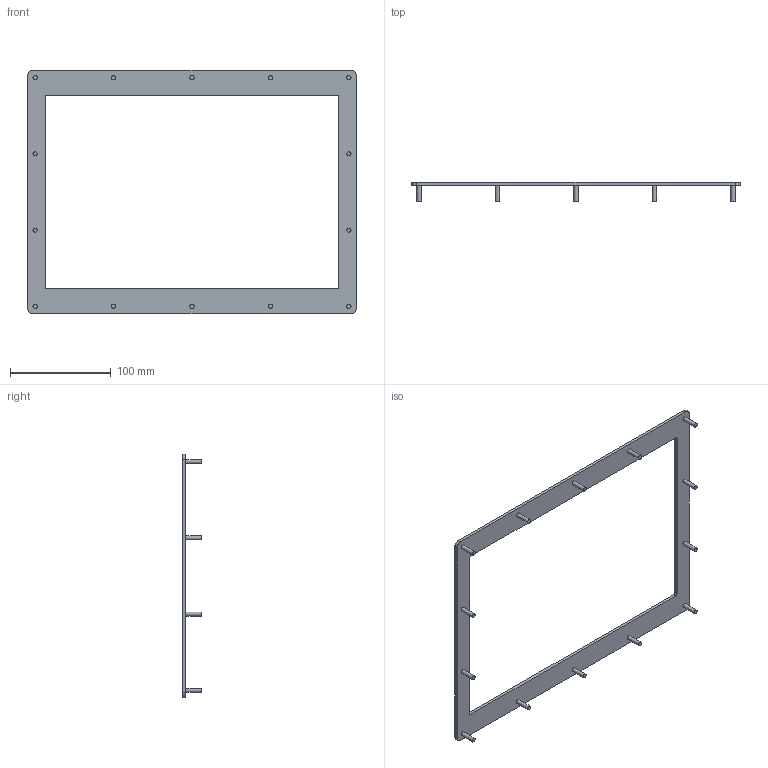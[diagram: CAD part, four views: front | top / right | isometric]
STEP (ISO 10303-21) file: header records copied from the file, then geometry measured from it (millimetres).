
FILE_DESCRIPTION(/* description */ ('Unknown'),/* implementation_level */ '2;1');
FILE_NAME(/* name */ 'G3AD1012',/* time_stamp */ '2021-04-21T09:20:33-04:00',/* author */ ('Unknown'),/* organization */ ('Unknown'),/* preprocessor_version */ 'ST-DEVELOPER v16.7',/* originating_system */ 'DEX',/* authorisation */ $);
FILE_SCHEMA (('AUTOMOTIVE_DESIGN {1 0 10303 214 3 1 1}'));
Length unit declared in the file: millimetre
Products named in the file (3): G3AD1012; G3AD1012-panel; FH-832-12
Assembly tree (15 placements, depth 2):
  G3AD1012
    G3AD1012-panel
    FH-832-12  x14
Bounding box: 325.75 x 19.05 x 241.3 mm (x, y, z)
Volume: 72675.8 mm3; surface area: 56342.9 mm2
Topology: 15 solids, 15 shells, 102 faces, 188 edges, 130 vertices
Faces by surface type: plane 52, cylinder 50
Full cylindrical faces by diameter (mm): 3.414 x14, 4.166 x14, 6.02 x14
Entity records: 1347 total; most frequent: DIRECTION 234, CARTESIAN_POINT 197, ORIENTED_EDGE 160, AXIS2_PLACEMENT_3D 101, EDGE_LOOP 84, FACE_BOUND 84, EDGE_CURVE 80, VERTEX_POINT 64
